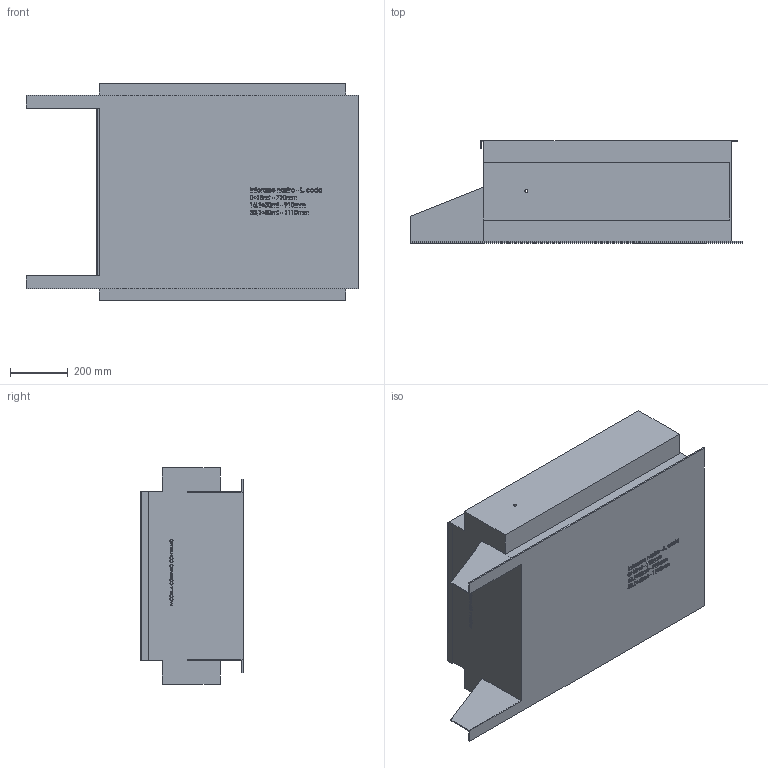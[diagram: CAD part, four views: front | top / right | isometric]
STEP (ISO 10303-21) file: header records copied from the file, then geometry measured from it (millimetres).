
FILE_DESCRIPTION (( 'STEP AP203' ), '1' );
FILE_NAME ('30754.step', '2019-03-14T14:31:45', ( 'PC' ), ( 'Hewlett-Packard Company' ), 'SwSTEP 2.0', 'SolidWorks 2016', '' );
FILE_SCHEMA (( 'CONFIG_CONTROL_DESIGN' ));
Products named in the file (1): 30754
Bounding box: 1150 x 353.5 x 750 mm (x, y, z)
Volume: 206957702.1 mm3; surface area: 2851297.4 mm2
Topology: 1 solids, 1 shells, 1110 faces, 2964 edges, 1976 vertices
Faces by surface type: plane 679, bspline 429, cylinder 2
Entity records: 57931 total; most frequent: CARTESIAN_POINT 33072, ORIENTED_EDGE 5928, DIRECTION 3474, EDGE_CURVE 2964, VECTOR 2102, LINE 2102, VERTEX_POINT 1976, EDGE_LOOP 1232
